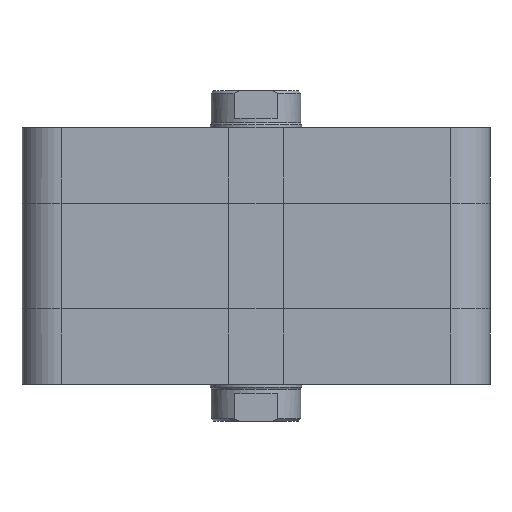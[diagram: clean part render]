
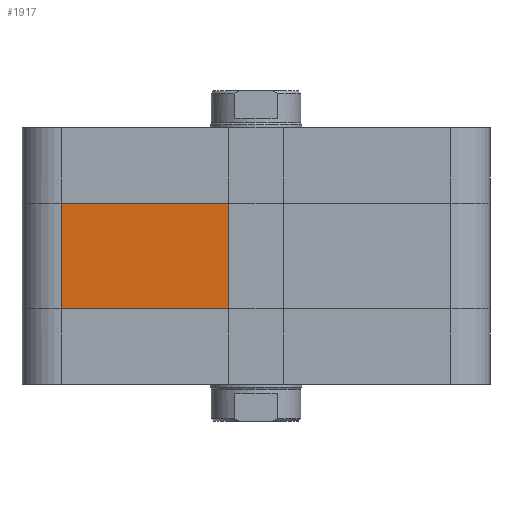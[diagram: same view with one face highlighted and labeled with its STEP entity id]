
A CAD part, front view. The second image highlights one B-rep face of the part: STEP entity #1917.
In plain terms, the highlighted planar face has unit normal (0, -1, 0).
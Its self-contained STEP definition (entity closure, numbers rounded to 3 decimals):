
#1828=CARTESIAN_POINT('',(-42.5,-51.,16.5));
#1829=VERTEX_POINT('',#1828);
#1837=CARTESIAN_POINT('',(-42.5,-51.,39.5));
#1838=VERTEX_POINT('',#1837);
#1839=CARTESIAN_POINT('',(-42.5,-51.,16.5));
#1840=DIRECTION('',(0.0,0.0,1.0));
#1841=VECTOR('',#1840,23.);
#1842=LINE('',#1839,#1841);
#1843=EDGE_CURVE('',#1829,#1838,#1842,.T.);
#1887=CARTESIAN_POINT('',(-6.,-51.0,0.0));
#1888=DIRECTION('',(0.0,-1.0,0.0));
#1889=DIRECTION('',(0.0,0.0,-1.0));
#1890=AXIS2_PLACEMENT_3D('',#1887,#1888,#1889);
#1891=PLANE('',#1890);
#1892=CARTESIAN_POINT('',(-6.,-51.0,16.5));
#1893=VERTEX_POINT('',#1892);
#1894=CARTESIAN_POINT('',(-42.5,-51.,16.5));
#1895=DIRECTION('',(1.0,0.0,0.0));
#1896=VECTOR('',#1895,36.5);
#1897=LINE('',#1894,#1896);
#1898=EDGE_CURVE('',#1829,#1893,#1897,.T.);
#1899=ORIENTED_EDGE('',*,*,#1898,.T.);
#1900=CARTESIAN_POINT('',(-6.,-51.0,39.5));
#1901=VERTEX_POINT('',#1900);
#1902=CARTESIAN_POINT('',(-6.,-51.0,16.5));
#1903=DIRECTION('',(0.0,0.0,1.0));
#1904=VECTOR('',#1903,23.0);
#1905=LINE('',#1902,#1904);
#1906=EDGE_CURVE('',#1893,#1901,#1905,.T.);
#1907=ORIENTED_EDGE('',*,*,#1906,.T.);
#1908=CARTESIAN_POINT('',(-42.5,-51.,39.5));
#1909=DIRECTION('',(1.0,0.0,0.0));
#1910=VECTOR('',#1909,36.5);
#1911=LINE('',#1908,#1910);
#1912=EDGE_CURVE('',#1838,#1901,#1911,.T.);
#1913=ORIENTED_EDGE('',*,*,#1912,.F.);
#1914=ORIENTED_EDGE('',*,*,#1843,.F.);
#1915=EDGE_LOOP('',(#1899,#1907,#1913,#1914));
#1916=FACE_OUTER_BOUND('',#1915,.T.);
#1917=ADVANCED_FACE('',(#1916),#1891,.T.);
